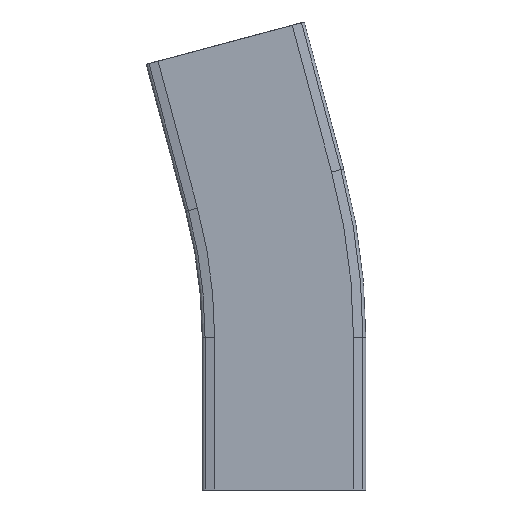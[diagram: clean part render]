
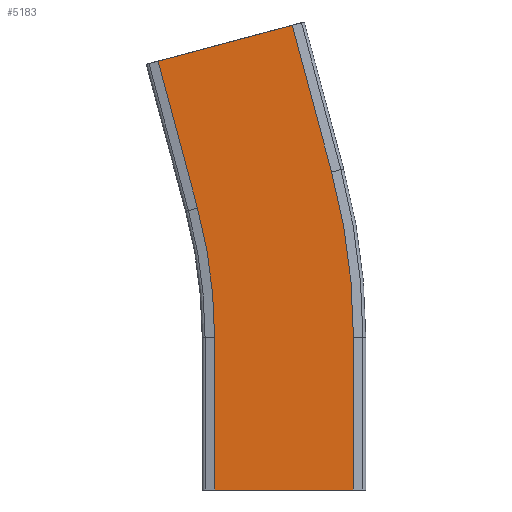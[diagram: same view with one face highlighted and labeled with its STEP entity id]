
A CAD part, front view. The second image highlights one B-rep face of the part: STEP entity #5183.
In plain terms, the highlighted planar face has unit normal (0, -1, 0).
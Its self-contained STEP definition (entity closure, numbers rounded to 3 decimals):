
#4773=CARTESIAN_POINT('',(36.5,-11.,0.0));
#4774=VERTEX_POINT('',#4773);
#4781=CARTESIAN_POINT('',(-36.5,-11.,0.0));
#4782=VERTEX_POINT('',#4781);
#4783=CARTESIAN_POINT('',(-36.5,-11.,0.0));
#4784=DIRECTION('',(1.0,0.0,0.0));
#4785=VECTOR('',#4784,73.);
#4786=LINE('',#4783,#4785);
#4787=EDGE_CURVE('',#4782,#4774,#4786,.T.);
#4813=CARTESIAN_POINT('',(-36.5,-11.,80.0));
#4814=VERTEX_POINT('',#4813);
#4828=CARTESIAN_POINT('',(-36.5,-11.,0.0));
#4829=DIRECTION('',(0.0,0.0,1.0));
#4830=VECTOR('',#4829,80.0);
#4831=LINE('',#4828,#4830);
#4832=EDGE_CURVE('',#4782,#4814,#4831,.T.);
#4842=CARTESIAN_POINT('',(36.5,-11.,80.0));
#4843=VERTEX_POINT('',#4842);
#4852=CARTESIAN_POINT('',(36.5,-11.,0.0));
#4853=DIRECTION('',(0.0,0.0,1.0));
#4854=VECTOR('',#4853,80.0);
#4855=LINE('',#4852,#4854);
#4856=EDGE_CURVE('',#4774,#4843,#4855,.T.);
#4969=CARTESIAN_POINT('',(25.034,-11.,167.093));
#4970=VERTEX_POINT('',#4969);
#4977=CARTESIAN_POINT('',(-300.0,-11.,80.0));
#4978=DIRECTION('',(0.0,-1.0,0.0));
#4979=DIRECTION('',(1.0,0.0,0.0));
#4980=AXIS2_PLACEMENT_3D('',#4977,#4978,#4979);
#4981=CIRCLE('',#4980,336.5);
#4982=EDGE_CURVE('',#4843,#4970,#4981,.T.);
#5036=CARTESIAN_POINT('',(-45.479,-11.,148.199));
#5037=VERTEX_POINT('',#5036);
#5052=CARTESIAN_POINT('',(-300.0,-11.,80.0));
#5053=DIRECTION('',(0.0,-1.0,0.0));
#5054=DIRECTION('',(1.0,0.0,0.0));
#5055=AXIS2_PLACEMENT_3D('',#5052,#5053,#5054);
#5056=CIRCLE('',#5055,263.5);
#5057=EDGE_CURVE('',#4814,#5037,#5056,.T.);
#5067=CARTESIAN_POINT('',(4.329,-11.,244.367));
#5068=VERTEX_POINT('',#5067);
#5075=CARTESIAN_POINT('',(25.034,-11.,167.093));
#5076=DIRECTION('',(-0.259,0.0,0.966));
#5077=VECTOR('',#5076,80.);
#5078=LINE('',#5075,#5077);
#5079=EDGE_CURVE('',#4970,#5068,#5078,.T.);
#5144=CARTESIAN_POINT('',(-66.184,-11.,225.473));
#5145=VERTEX_POINT('',#5144);
#5154=CARTESIAN_POINT('',(-45.479,-11.,148.199));
#5155=DIRECTION('',(-0.259,0.0,0.966));
#5156=VECTOR('',#5155,80.);
#5157=LINE('',#5154,#5156);
#5158=EDGE_CURVE('',#5037,#5145,#5157,.T.);
#5163=CARTESIAN_POINT('',(66.067,-11.,13.955));
#5164=DIRECTION('',(0.0,-1.0,0.0));
#5165=DIRECTION('',(0.259,0.0,-0.966));
#5166=AXIS2_PLACEMENT_3D('',#5163,#5164,#5165);
#5167=PLANE('',#5166);
#5168=CARTESIAN_POINT('',(4.329,-11.,244.367));
#5169=DIRECTION('',(-0.966,0.,-0.259));
#5170=VECTOR('',#5169,73.);
#5171=LINE('',#5168,#5170);
#5172=EDGE_CURVE('',#5068,#5145,#5171,.T.);
#5173=ORIENTED_EDGE('',*,*,#5172,.T.);
#5174=ORIENTED_EDGE('',*,*,#5158,.F.);
#5175=ORIENTED_EDGE('',*,*,#5057,.F.);
#5176=ORIENTED_EDGE('',*,*,#4832,.F.);
#5177=ORIENTED_EDGE('',*,*,#4787,.T.);
#5178=ORIENTED_EDGE('',*,*,#4856,.T.);
#5179=ORIENTED_EDGE('',*,*,#4982,.T.);
#5180=ORIENTED_EDGE('',*,*,#5079,.T.);
#5181=EDGE_LOOP('',(#5173,#5174,#5175,#5176,#5177,#5178,#5179,#5180));
#5182=FACE_OUTER_BOUND('',#5181,.T.);
#5183=ADVANCED_FACE('',(#5182),#5167,.T.);
